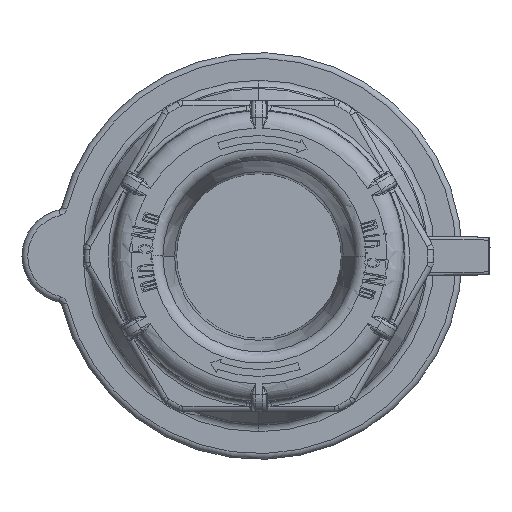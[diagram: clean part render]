
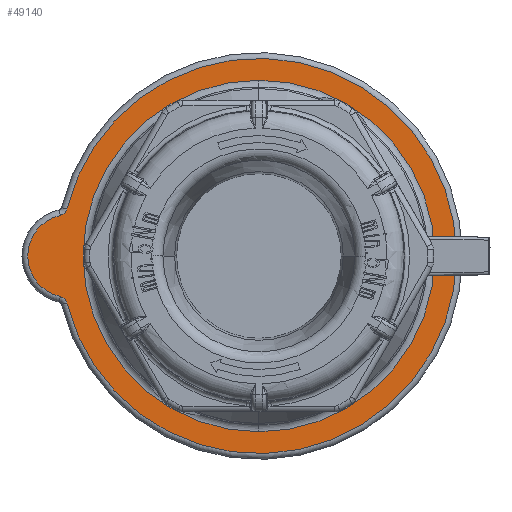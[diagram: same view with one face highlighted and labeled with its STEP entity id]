
A CAD part, front view. The second image highlights one B-rep face of the part: STEP entity #49140.
In plain terms, the highlighted planar face has unit normal (0, -1, 0).
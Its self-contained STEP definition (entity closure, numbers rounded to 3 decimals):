
#9670=CARTESIAN_POINT('',(0.,18.,0.));
#9671=DIRECTION('',(0.,-1.,0.));
#9672=DIRECTION('',(0.,0.,-1.));
#9673=AXIS2_PLACEMENT_3D('',#9670,#9671,#9672);
#9675=CARTESIAN_POINT('',(0.,18.,0.));
#9676=DIRECTION('',(0.,1.,0.));
#9677=DIRECTION('',(0.,0.,-1.));
#9678=AXIS2_PLACEMENT_3D('',#9675,#9676,#9677);
#9685=CARTESIAN_POINT('',(0.,18.,0.));
#9686=DIRECTION('',(0.,-1.,0.));
#9687=DIRECTION('',(-0.971,0.,-0.238));
#9688=AXIS2_PLACEMENT_3D('',#9685,#9686,#9687);
#9738=CARTESIAN_POINT('',(-34.674,18.,8.496));
#9739=DIRECTION('',(0.,1.,0.));
#9740=DIRECTION('',(0.971,0.,-0.238));
#9741=AXIS2_PLACEMENT_3D('',#9738,#9739,#9740);
#9743=CARTESIAN_POINT('',(-32.8,18.,0.));
#9744=DIRECTION('',(0.,1.,0.));
#9745=DIRECTION('',(-0.215,0.,-0.977));
#9746=AXIS2_PLACEMENT_3D('',#9743,#9744,#9745);
#9768=CARTESIAN_POINT('',(-34.674,18.,-8.496));
#9769=DIRECTION('',(0.,-1.,0.));
#9770=DIRECTION('',(0.971,0.,0.238));
#9771=AXIS2_PLACEMENT_3D('',#9768,#9769,#9770);
#21711=CARTESIAN_POINT('',(0.,18.,-30.425));
#21712=VERTEX_POINT('',#21711);
#21713=CARTESIAN_POINT('',(0.,18.,30.425));
#21714=VERTEX_POINT('',#21713);
#21947=CARTESIAN_POINT('',(-33.217,18.,-8.139));
#21948=CARTESIAN_POINT('',(-33.217,18.,8.139));
#21949=VERTEX_POINT('',#21947);
#21950=VERTEX_POINT('',#21948);
#21953=CARTESIAN_POINT('',(-34.351,18.,7.031));
#21954=VERTEX_POINT('',#21953);
#21955=CARTESIAN_POINT('',(-34.351,18.,-7.031));
#21956=VERTEX_POINT('',#21955);
#49121=CARTESIAN_POINT('',(0.,18.,0.));
#49122=DIRECTION('',(0.,-1.,0.));
#49123=DIRECTION('',(0.,0.,1.));
#49124=AXIS2_PLACEMENT_3D('',#49121,#49122,#49123);
#49125=PLANE('46',#49124);
#49127=ORIENTED_EDGE('1826',*,*,#49126,.F.);
#49129=ORIENTED_EDGE('1834',*,*,#49128,.T.);
#49131=ORIENTED_EDGE('1830',*,*,#49130,.T.);
#49133=ORIENTED_EDGE('1828',*,*,#49132,.F.);
#49134=EDGE_LOOP('46',(#49127,#49129,#49131,#49133));
#49135=FACE_OUTER_BOUND('46',#49134,.F.);
#49136=ORIENTED_EDGE('1600',*,*,#49079,.T.);
#49137=ORIENTED_EDGE('1602',*,*,#49102,.F.);
#49138=EDGE_LOOP('46',(#49136,#49137));
#49139=FACE_BOUND('46',#49138,.F.);
#9674=CIRCLE('1600',#9673,30.425);
#9679=CIRCLE('1602',#9678,30.425);
#9689=CIRCLE('1826',#9688,34.2);
#9742=CIRCLE('1828',#9741,1.5);
#9747=CIRCLE('1830',#9746,7.2);
#9772=CIRCLE('1834',#9771,1.5);
#49079=EDGE_CURVE('1600',#21712,#21714,#9674,.T.);
#49102=EDGE_CURVE('1602',#21712,#21714,#9679,.T.);
#49126=EDGE_CURVE('1826',#21949,#21950,#9689,.T.);
#49128=EDGE_CURVE('1834',#21949,#21956,#9772,.T.);
#49130=EDGE_CURVE('1830',#21956,#21954,#9747,.T.);
#49132=EDGE_CURVE('1828',#21950,#21954,#9742,.T.);
#49140=ADVANCED_FACE('46',(#49135,#49139),#49125,.T.);
